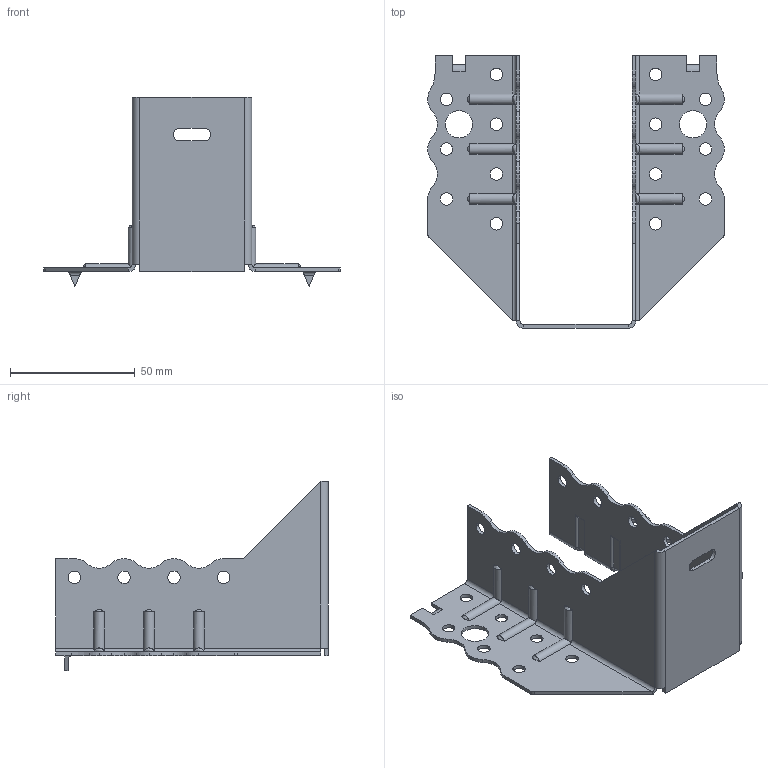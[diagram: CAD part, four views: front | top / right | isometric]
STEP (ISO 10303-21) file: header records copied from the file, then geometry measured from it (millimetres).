
FILE_DESCRIPTION (( 'STEP AP203' ), '1' );
FILE_NAME ('30602TOP.STEP', '2021-04-06T17:39:38', ( '' ), ( '' ), 'SwSTEP 2.0', 'SolidWorks 2013', '' );
FILE_SCHEMA (( 'CONFIG_CONTROL_DESIGN' ));
Length unit declared in the file: millimetre
Products named in the file (1): 30602TOP
Bounding box: 119 x 109.5 x 76 mm (x, y, z)
Volume: 26736.9 mm3; surface area: 37883.6 mm2
Topology: 1 solids, 1 shells, 265 faces, 697 edges, 434 vertices
Faces by surface type: cylinder 166, plane 75, torus 12, bspline 12
Entity records: 9676 total; most frequent: CARTESIAN_POINT 3023, ORIENTED_EDGE 1394, DIRECTION 1363, EDGE_CURVE 697, AXIS2_PLACEMENT_3D 498, VERTEX_POINT 434, LINE 367, VECTOR 367
